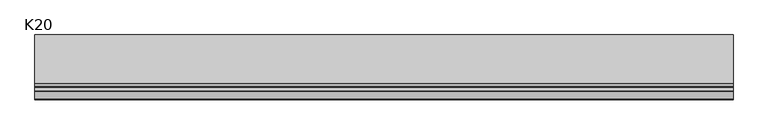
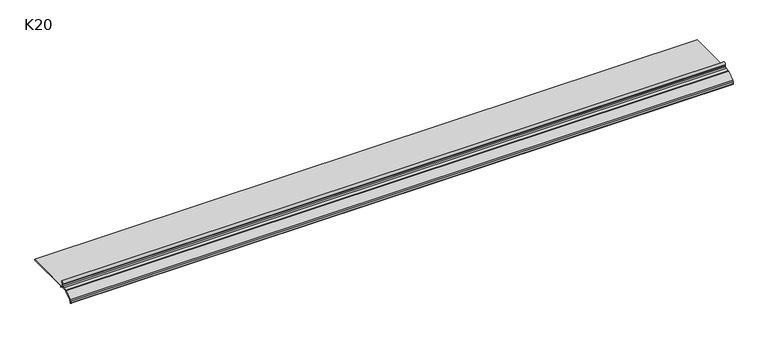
"""IFC4 building model written with IfcOpenShell, lengths in millimetres: proxy geometry, K20 Profil okapowy prosty : K20."""

from ifc_helpers import new_model, si_unit, frame, origin, place, context, project, spatial, polyline, circle_curve, source, transform, mapped, element, save
from ifc_brep_helpers import plane_surface, cylinder_surface, revolved_surface, advanced_brep


def k20_fda8f904(model_context):
    return source(origin(), model_context, "Body", "AdvancedBrep", [
        advanced_brep(
        [(0.0, 87.4989572, -10.1021899), (0.0, 87.4989572, -11.7962628), (0.0, 3.8555414, -11.7962628), (0.0, 3.8184302, -14.8082521), (0.0, 2.818506, -14.7959319), (0.0, 2.8554668, -11.7961596), (0.0, -12.8739503, -12.0873026), (0.0, -13.7120428, -12.3877207), (0.0, -26.4454583, -21.9775098), (0.0, -27.2422707, -23.5751141), (0.0, -27.2422707, -27.009236), (0.0, -28.9426252, -27.0091483), (0.0, -28.9426252, -23.2256491), (0.0, -27.7470161, -20.8295524), (0.0, -14.6847117, -10.9920705), (0.0, -12.9833846, -10.3902613), (0.0, -6.0170507, -10.0981654), (0.0, -4.1008363, -8.0999212), (0.0, -4.1008363, -5.5101863), (0.0, -4.0266413, -4.0258099), (0.0, 0.0, 0.0), (0.0, -0.0197124, -1.5998786), (0.0, -2.4989019, -4.0499843), (0.0, -2.500569, -5.510882), (0.0, -2.500569, -10.1021899), (1250.0, 87.4989572, -10.1021899), (1250.0, -2.500569, -10.1021899), (1250.0, -2.500569, -5.510882), (1250.0, -2.4989019, -4.0499843), (1250.0, -0.0197124, -1.5998786), (1250.0, 0.0, 0.0), (1250.0, -4.0266413, -4.0258099), (1250.0, -4.1005689, -5.5101863), (1250.0, -4.1008363, -8.0999212), (1250.0, -6.0170507, -10.0981654), (1250.0, -12.9833846, -10.3902613), (1250.0, -14.6847117, -10.9920705), (1250.0, -27.7470161, -20.8295524), (1250.0, -28.9422346, -23.2256491), (1250.0, -28.9426252, -27.0091483), (1250.0, -27.2426253, -27.009236), (1250.0, -27.2422707, -23.5751141), (1250.0, -26.4454583, -21.9775098), (1250.0, -13.7120428, -12.3877207), (1250.0, -12.8739503, -12.0873026), (1250.0, 2.8554668, -11.7961596), (1250.0, 2.818506, -14.7959319), (1250.0, 3.8184302, -14.8082521), (1250.0, 3.8555414, -11.7962628), (1250.0, 87.4989572, -11.7962628)],
        [
            (0, 1),
            (1, 2),
            (2, 3),
            (3, 4),
            (4, 5),
            (5, 6),
            (6, 7, circle_curve(frame((0.0, -12.8482023, -13.4783781), z_axis=(1.0, 0.0, 0.0), x_axis=(0.0, -0.01850629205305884, 0.9998287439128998)), 1.3913138)),
            (7, 8),
            (8, 9, circle_curve(frame((0.0, -25.2422707, -23.5751141), z_axis=(1.0, 0.0, 0.0), x_axis=(0.0, -0.6015938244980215, 0.7988021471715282)), 2.0)),
            (9, 10),
            (10, 11, circle_curve(frame((0.0, -28.0926252, -27.0091483), z_axis=(-1.0, 0.0, 0.0), x_axis=(0.0, 0.9999999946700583, -0.0001032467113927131)), 0.85)),
            (11, 12),
            (12, 13, circle_curve(frame((0.0, -25.9422346, -23.2259588), z_axis=(-1.0, 0.0, 0.0), x_axis=(0.0, -0.9999999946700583, 0.00010324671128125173)), 3.0)),
            (13, 14),
            (14, 15, circle_curve(frame((0.0, -12.8799303, -13.388477), z_axis=(-1.0, 0.0, 0.0), x_axis=(0.0, -0.6015938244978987, 0.7988021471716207)), 3.0)),
            (15, 16),
            (16, 17, circle_curve(frame((0.0, -6.1008363, -8.0999212), z_axis=(1.0, 0.0, 0.0), x_axis=(0.0, 0.04189282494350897, -0.9991221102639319)), 2.0)),
            (17, 18),
            (18, 19, circle_curve(frame((0.0, 10.869654, -5.5117319), z_axis=(-1.0, 0.0, 0.0), x_axis=(0.0, -0.9999999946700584, 0.00010324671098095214)), 14.970223)),
            (19, 20, circle_curve(frame((0.0, 0.4451419, -4.4718752), z_axis=(-1.0, 0.0, 0.0), x_axis=(0.0, -0.9950616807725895, 0.09925850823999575)), 4.4939759)),
            (20, 21),
            (21, 22, circle_curve(frame((0.0, 0.0325847, -4.1321586), z_axis=(1.0, 0.0, 0.0), x_axis=(0.0, -0.020647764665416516, 0.9997868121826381)), 2.53282)),
            (22, 23, circle_curve(frame((0.0, 65.5675894, -4.8581062), z_axis=(1.0, 0.0, 0.0), x_axis=(0.0, -0.9999295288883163, 0.011871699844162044)), 68.0712884)),
            (23, 24),
            (24, 0),
            (25, 26),
            (26, 27),
            (27, 28, circle_curve(frame((1250.0, 65.5675894, -4.8581062), z_axis=(-1.0, 0.0, 0.0), x_axis=(0.0, -0.9999295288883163, 0.011871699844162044)), 68.0712884)),
            (28, 29, circle_curve(frame((1250.0, 0.0325847, -4.1321586), z_axis=(-1.0, 0.0, 0.0), x_axis=(0.0, -0.020647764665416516, 0.9997868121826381)), 2.53282)),
            (29, 30),
            (30, 31, circle_curve(frame((1250.0, 0.4451419, -4.4718752), z_axis=(1.0, 0.0, 0.0), x_axis=(0.0, -0.9950616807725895, 0.09925850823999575)), 4.4939759)),
            (31, 32, circle_curve(frame((1250.0, 10.869654, -5.5117319), z_axis=(1.0, 0.0, 0.0), x_axis=(0.0, -0.9999999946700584, 0.00010324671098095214)), 14.970223)),
            (32, 33),
            (33, 34, circle_curve(frame((1250.0, -6.1008363, -8.0999212), z_axis=(-1.0, 0.0, 0.0), x_axis=(0.0, 0.04189282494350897, -0.9991221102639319)), 2.0)),
            (34, 35),
            (35, 36, circle_curve(frame((1250.0, -12.8799303, -13.388477), z_axis=(1.0, 0.0, 0.0), x_axis=(0.0, -0.6015938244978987, 0.7988021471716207)), 3.0)),
            (36, 37),
            (37, 38, circle_curve(frame((1250.0, -25.9422346, -23.2259588), z_axis=(1.0, 0.0, 0.0), x_axis=(0.0, -0.9999999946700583, 0.00010324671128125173)), 3.0)),
            (38, 39),
            (39, 40, circle_curve(frame((1250.0, -28.0926252, -27.0091483), z_axis=(1.0, 0.0, 0.0), x_axis=(0.0, 0.9999999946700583, -0.0001032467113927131)), 0.85)),
            (40, 41),
            (41, 42, circle_curve(frame((1250.0, -25.2422707, -23.5751141), z_axis=(-1.0, 0.0, 0.0), x_axis=(0.0, -0.6015938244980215, 0.7988021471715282)), 2.0)),
            (42, 43),
            (43, 44, circle_curve(frame((1250.0, -12.8482023, -13.4783781), z_axis=(-1.0, 0.0, 0.0), x_axis=(0.0, -0.01850629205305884, 0.9998287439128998)), 1.3913138)),
            (44, 45),
            (45, 46),
            (46, 47),
            (47, 48),
            (48, 49),
            (49, 25),
            (17, 33),
            (32, 18),
            (31, 19),
            (30, 20),
            (29, 21),
            (28, 22),
            (27, 23),
            (26, 24),
            (16, 34),
            (0, 25),
            (49, 1),
            (48, 2),
            (47, 3),
            (46, 4),
            (45, 5),
            (44, 6),
            (43, 7),
            (42, 8),
            (41, 9),
            (40, 10),
            (39, 11),
            (38, 12),
            (37, 13),
            (36, 14),
            (35, 15),
        ],
        [
            plane_surface(frame((0.0, 0.0, 0.0), z_axis=(-1.0, 0.0, 0.0), x_axis=(0.0, 0.0, 1.0))),
            plane_surface(frame((1250.0, 0.0, 0.0), z_axis=(1.0, 0.0, 0.0), x_axis=(0.0, 0.0, 1.0))),
            plane_surface(frame((0.0, -4.1008363, -8.0999212), z_axis=(0.0, -1.0, 0.0), x_axis=(1.0, 0.0, 0.0))),
            cylinder_surface(frame((0.0, 10.869654, -5.5117319), z_axis=(-1.0000000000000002, 0.0, 0.0), x_axis=(0.0, -0.9999999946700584, 0.00010324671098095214)), 14.970223),
            cylinder_surface(frame((0.0, 0.4451419, -4.4718752), z_axis=(-1.0000000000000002, 0.0, 0.0), x_axis=(0.0, -0.9950616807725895, 0.09925850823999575)), 4.4939759),
            plane_surface(frame((0.0, 0.0, 0.0), z_axis=(0.0, 0.9999241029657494, -0.012320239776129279), x_axis=(1.0, 0.0, 0.0))),
            revolved_surface(polyline([(1250.0, -0.01971237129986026, -1.599878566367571), (0.0, -0.01971237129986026, -1.599878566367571)]), (0.0, 0.0325847, -4.1321586), (1.0, 0.0, 0.0)),
            revolved_surface(polyline([(1250.0, -2.498901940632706, -4.049984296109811), (0.0, -2.498901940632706, -4.049984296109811)]), (0.0, 65.5675894, -4.8581062), (1.0, 0.0, 0.0)),
            plane_surface(frame((0.0, -2.500569, -5.510882), z_axis=(0.0, 1.0, 0.0), x_axis=(1.0, 0.0, 0.0))),
            revolved_surface(polyline([(1250.0, -6.017050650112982, -10.098165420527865), (0.0, -6.017050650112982, -10.098165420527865)]), (0.0, -6.1008363, -8.0999212), (1.0, 0.0, 0.0)),
            plane_surface(frame((0.0, 87.4989572, -10.1021899), z_axis=(0.0, 1.0, 0.0), x_axis=(1.0, 0.0, 0.0))),
            plane_surface(frame((0.0, 87.4989572, -11.7962628), z_axis=(0.0, 0.0, -1.0), x_axis=(1.0, 0.0, 0.0))),
            plane_surface(frame((0.0, 3.8555414, -11.7962628), z_axis=(0.0, 0.9999241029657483, -0.012320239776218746), x_axis=(1.0, 0.0, 0.0))),
            plane_surface(frame((0.0, 3.8184302, -14.8082521), z_axis=(0.0, -0.01232023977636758, -0.9999241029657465), x_axis=(1.0, 0.0, 0.0))),
            plane_surface(frame((0.0, 2.818506, -14.7959319), z_axis=(0.0, -0.9999241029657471, 0.012320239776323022), x_axis=(1.0, 0.0, 0.0))),
            plane_surface(frame((0.0, 2.8554668, -11.7961596), z_axis=(0.0, 0.01850629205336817, -0.999828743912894), x_axis=(1.0, 0.0, 0.0))),
            revolved_surface(polyline([(1250.0, -12.873950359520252, -12.087302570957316), (0.0, -12.873950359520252, -12.087302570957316)]), (0.0, -12.8482023, -13.4783781), (1.0, 0.0, 0.0)),
            plane_surface(frame((0.0, -13.7120428, -12.3877207), z_axis=(0.0, 0.6015938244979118, -0.7988021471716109), x_axis=(1.0, 0.0, 0.0))),
            revolved_surface(polyline([(1250.0, -26.44545834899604, -21.977509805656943), (0.0, -26.44545834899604, -21.977509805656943)]), (0.0, -25.2422707, -23.5751141), (1.0, 0.0, 0.0)),
            plane_surface(frame((0.0, -27.2422707, -23.5751141), z_axis=(0.0, 1.0, 0.0), x_axis=(1.0, 0.0, 0.0))),
            cylinder_surface(frame((0.0, -28.0926252, -27.0091483), z_axis=(-1.0, 0.0, 0.0), x_axis=(0.0, 0.9999999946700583, -0.0001032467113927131)), 0.85),
            plane_surface(frame((0.0, -28.9426252, -27.0091483), z_axis=(0.0, -1.0, 0.0), x_axis=(1.0, 0.0, 0.0))),
            cylinder_surface(frame((0.0, -25.9422346, -23.2259588), z_axis=(-1.0, 0.0, 0.0), x_axis=(0.0, -0.9999999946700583, 0.00010324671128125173)), 3.0),
            plane_surface(frame((0.0, -27.7470161, -20.8295524), z_axis=(0.0, -0.6015938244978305, 0.798802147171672), x_axis=(1.0, 0.0, 0.0))),
            cylinder_surface(frame((0.0, -12.8799303, -13.388477), z_axis=(-1.0, 0.0, 0.0), x_axis=(0.0, -0.6015938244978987, 0.7988021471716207)), 3.0),
            plane_surface(frame((0.0, -12.9833846, -10.3902613), z_axis=(0.0, -0.04189282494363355, 0.9991221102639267), x_axis=(1.0, 0.0, 0.0))),
            plane_surface(frame((0.0, -2.500569, -10.1021899), z_axis=(0.0, 0.0, 1.0), x_axis=(1.0, 0.0, 0.0))),
        ],
        [
            (0, [[1, 2, 3, 4, 5, 6, 7, 8, 9, 10, 11, 12, 13, 14, 15, 16, 17, 18, 19, 20, 21, 22, 23, 24, 25]]),
            (1, [[26, 27, 28, 29, 30, 31, 32, 33, 34, 35, 36, 37, 38, 39, 40, 41, 42, 43, 44, 45, 46, 47, 48, 49, 50]]),
            (2, [[-18, 51, -33, 52]]),
            (3, [[-19, -52, -32, 53]]),
            (4, [[-20, -53, -31, 54]]),
            (5, [[-21, -54, -30, 55]]),
            (6, [[-22, -55, -29, 56]]),
            (7, [[-23, -56, -28, 57]]),
            (8, [[-24, -57, -27, 58]]),
            (9, [[-17, 59, -34, -51]]),
            (10, [[-1, 60, -50, 61]]),
            (11, [[-2, -61, -49, 62]]),
            (12, [[-3, -62, -48, 63]]),
            (13, [[-4, -63, -47, 64]]),
            (14, [[-5, -64, -46, 65]]),
            (15, [[-6, -65, -45, 66]]),
            (16, [[-7, -66, -44, 67]]),
            (17, [[-8, -67, -43, 68]]),
            (18, [[-9, -68, -42, 69]]),
            (19, [[-10, -69, -41, 70]]),
            (20, [[-11, -70, -40, 71]]),
            (21, [[-12, -71, -39, 72]]),
            (22, [[-13, -72, -38, 73]]),
            (23, [[-14, -73, -37, 74]]),
            (24, [[-15, -74, -36, 75]]),
            (25, [[-16, -75, -35, -59]]),
            (26, [[-25, -58, -26, -60]]),
        ],
    ),
    ])


if __name__ == "__main__":
    model = new_model("IFC4")
    model_context = context("Model", 3, world=origin())
    ifc_project = project(units=[si_unit("LENGTHUNIT", "METRE", prefix="MILLI")], contexts=[model_context])
    site = spatial("IfcSite", under=ifc_project)
    building = spatial("IfcBuilding", under=site)
    placement = place(None, origin())
    k20_shape = k20_fda8f904(model_context)
    element("IfcBuildingElementProxy", 1, Name="K20 Profil okapowy prosty : K20", ObjectType="K20 Profil okapowy prosty : K20", at=placement, inside=building, context=model_context, shape_type="MappedRepresentation", body=[
        mapped(k20_shape, transform((0.0, 0.0, 0.0), x_axis=(1.0, 0.0, 0.0), y_axis=(0.0, 1.0, 0.0), z_axis=(0.0, 0.0, 1.0))),
    ])
    save(model, "model.ifc")
